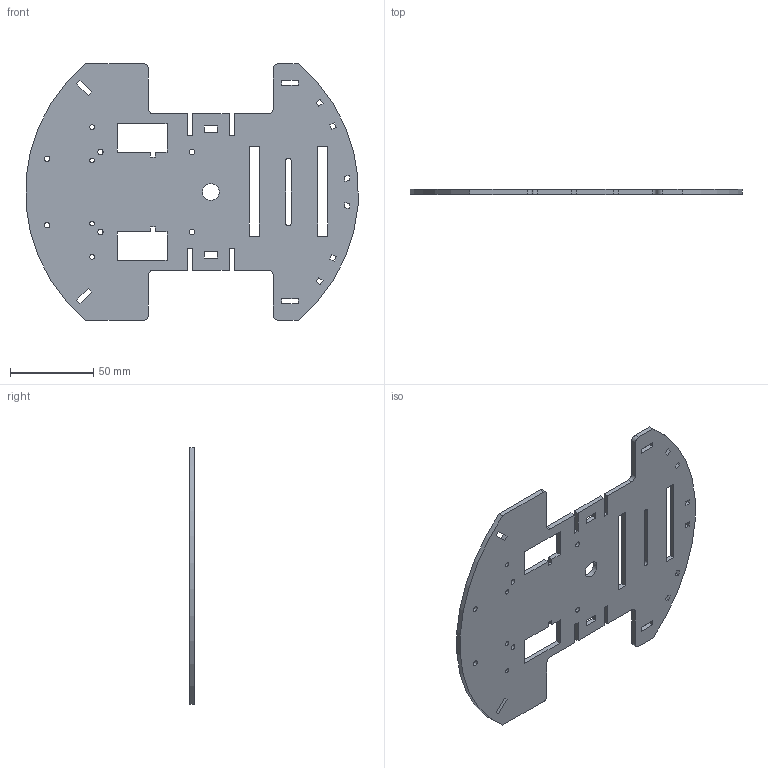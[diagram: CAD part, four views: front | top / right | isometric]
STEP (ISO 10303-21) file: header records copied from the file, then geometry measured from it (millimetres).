
FILE_DESCRIPTION(('FreeCAD Model'),'2;1');
FILE_NAME('Open CASCADE Shape Model','2024-06-26T11:40:51',('FreeCAD'),( 'FreeCAD'),'Open CASCADE STEP processor 7.6','FreeCAD','Unknown');
FILE_SCHEMA(('AUTOMOTIVE_DESIGN { 1 0 10303 214 1 1 1 1 }'));
Length unit declared in the file: millimetre
Products named in the file (1): Open CASCADE STEP translator 7.6 15
Bounding box: 199.36 x 3 x 154 mm (x, y, z)
Volume: 61578.9 mm3; surface area: 46149.9 mm2
Topology: 1 solids, 1 shells, 125 faces, 369 edges, 246 vertices
Faces by surface type: plane 102, cylinder 23
Full cylindrical faces by diameter (mm): 2.75 x4, 3.2 x6, 10 x1
Entity records: 4251 total; most frequent: CARTESIAN_POINT 741, ORIENTED_EDGE 738, DIRECTION 667, EDGE_CURVE 369, LINE 323, VECTOR 323, VERTEX_POINT 246, FACE_BOUND 181
